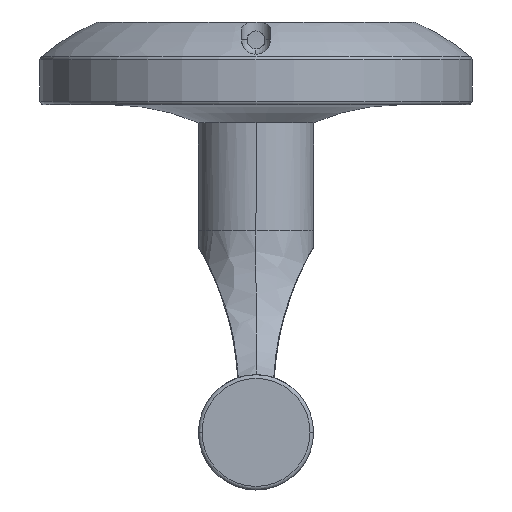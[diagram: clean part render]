
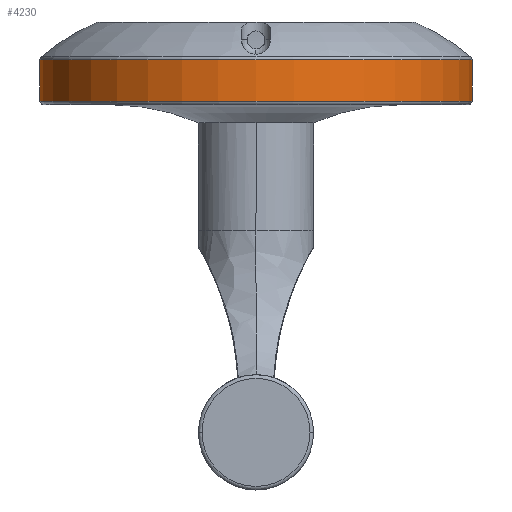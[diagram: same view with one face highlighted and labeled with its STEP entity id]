
A CAD part, front view. The second image highlights one B-rep face of the part: STEP entity #4230.
In plain terms, the highlighted cylindrical face has radius 30 mm (diameter 60 mm), a partial arc.
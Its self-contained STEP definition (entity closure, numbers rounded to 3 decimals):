
#131 = CARTESIAN_POINT ( 'NONE',  ( 0., 0., -4.5 ) ) ;
#283 = ORIENTED_EDGE ( 'NONE', *, *, #428, .T. ) ;
#326 = FACE_OUTER_BOUND ( 'NONE', #3968, .T. ) ;
#428 = EDGE_CURVE ( 'NONE', #3800, #7450, #1743, .T. ) ;
#702 = AXIS2_PLACEMENT_3D ( 'NONE', #131, #6695, #7370 ) ;
#1051 = CARTESIAN_POINT ( 'NONE',  ( 30., 0., -5.229 ) ) ;
#1376 = CARTESIAN_POINT ( 'NONE',  ( 30., 0., -11. ) ) ;
#1583 = CYLINDRICAL_SURFACE ( 'NONE', #702, 30. ) ;
#1624 = VECTOR ( 'NONE', #2413, 1000. ) ;
#1700 = LINE ( 'NONE', #6470, #2516 ) ;
#1743 = LINE ( 'NONE', #8289, #1624 ) ;
#1891 = CARTESIAN_POINT ( 'NONE',  ( 0., 0., -11. ) ) ;
#2413 = DIRECTION ( 'NONE',  ( 0., 0., 1. ) ) ;
#2516 = VECTOR ( 'NONE', #2518, 1000. ) ;
#2518 = DIRECTION ( 'NONE',  ( 0., 0., 1. ) ) ;
#3555 = EDGE_CURVE ( 'NONE', #7511, #8199, #1700, .T. ) ;
#3800 = VERTEX_POINT ( 'NONE', #1376 ) ;
#3834 = DIRECTION ( 'NONE',  ( 0., 0., 1. ) ) ;
#3852 = EDGE_CURVE ( 'NONE', #7450, #8199, #5479, .T. ) ;
#3887 = CARTESIAN_POINT ( 'NONE',  ( -30., 0., -11. ) ) ;
#3968 = EDGE_LOOP ( 'NONE', ( #6180, #7827, #283, #6320 ) ) ;
#4031 = CIRCLE ( 'NONE', #4606, 30. ) ;
#4230 = ADVANCED_FACE ( 'NONE', ( #326 ), #1583, .T. ) ;
#4504 = AXIS2_PLACEMENT_3D ( 'NONE', #5534, #8102, #8016 ) ;
#4517 = DIRECTION ( 'NONE',  ( 1., 0., 0. ) ) ;
#4606 = AXIS2_PLACEMENT_3D ( 'NONE', #1891, #3834, #4517 ) ;
#5479 = CIRCLE ( 'NONE', #4504, 30. ) ;
#5534 = CARTESIAN_POINT ( 'NONE',  ( 0., 0., -5.229 ) ) ;
#5843 = EDGE_CURVE ( 'NONE', #7511, #3800, #4031, .T. ) ;
#5874 = CARTESIAN_POINT ( 'NONE',  ( -30., 0., -5.229 ) ) ;
#6180 = ORIENTED_EDGE ( 'NONE', *, *, #3555, .F. ) ;
#6320 = ORIENTED_EDGE ( 'NONE', *, *, #3852, .T. ) ;
#6470 = CARTESIAN_POINT ( 'NONE',  ( -30., 0., -4.5 ) ) ;
#6695 = DIRECTION ( 'NONE',  ( 0., 0., 1. ) ) ;
#7370 = DIRECTION ( 'NONE',  ( 1., 0., 0. ) ) ;
#7450 = VERTEX_POINT ( 'NONE', #1051 ) ;
#7511 = VERTEX_POINT ( 'NONE', #3887 ) ;
#7827 = ORIENTED_EDGE ( 'NONE', *, *, #5843, .T. ) ;
#8016 = DIRECTION ( 'NONE',  ( -1., 0., 0. ) ) ;
#8102 = DIRECTION ( 'NONE',  ( 0., 0., -1. ) ) ;
#8199 = VERTEX_POINT ( 'NONE', #5874 ) ;
#8289 = CARTESIAN_POINT ( 'NONE',  ( 30., 0., -4.5 ) ) ;
